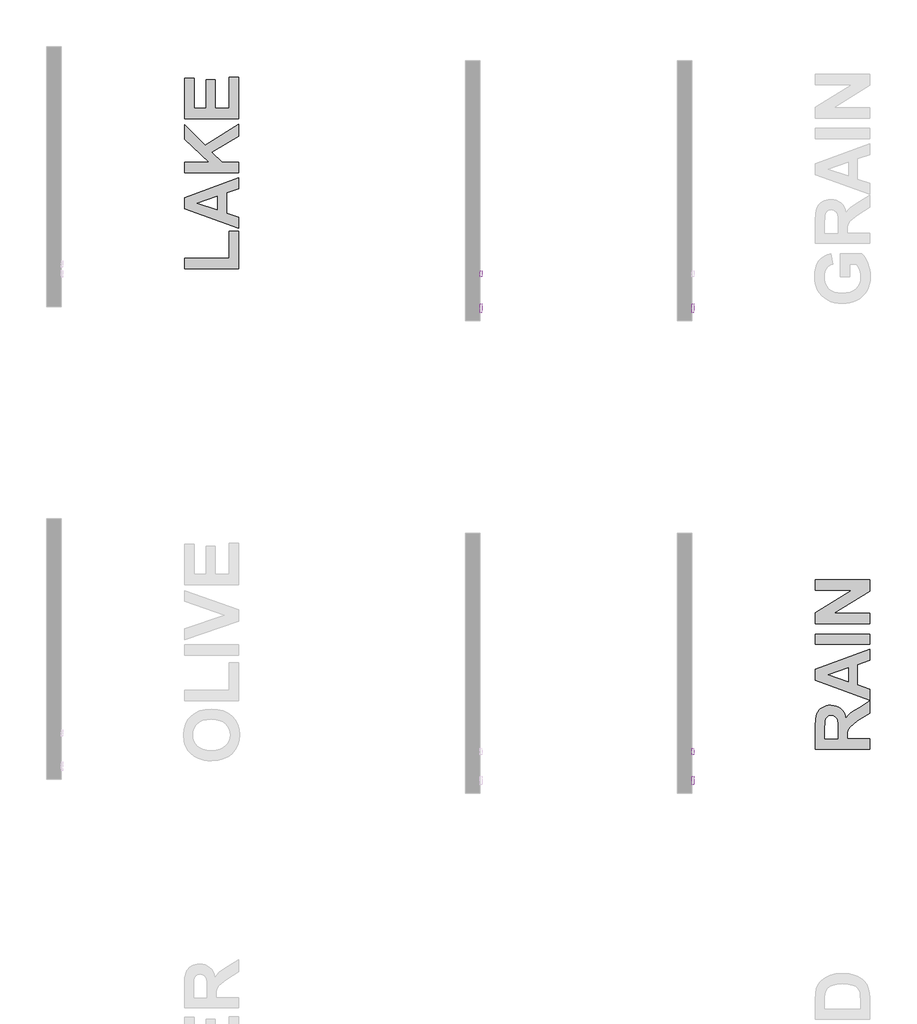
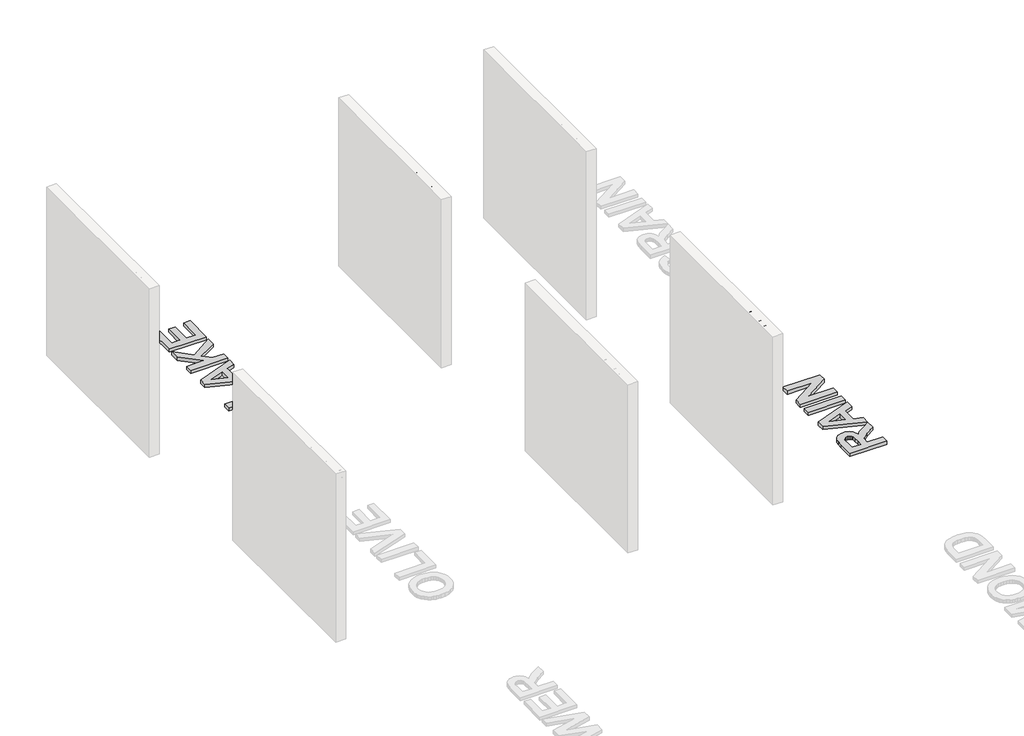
# One storey, part 9 of 10: 7 proxies.
"""IFC4 building model written with IfcOpenShell, lengths in millimetres."""

from ifc_helpers import new_model, si_unit, frame, origin, origin_with_axes, place, context, project, spatial, polyline, outline, extrude, element, save

model = new_model("IFC4")

# Units and contexts
model_context = context("Model", 3, world=origin())
ifc_project = project(units=[si_unit("LENGTHUNIT", "METRE", prefix="MILLI")], contexts=[model_context])

# Site, building, storey
site = spatial("IfcSite", under=ifc_project)
building = spatial("IfcBuilding", under=site)
storey = spatial("IfcBuildingStorey", under=building, Name="PORTOBELLO - SHOWROOM", Elevation=0.0)

# Proxies
placement = place(None, origin())
element("IfcBuildingElementProxy", 1, Name="10mm Arial", ObjectType="10mm Arial", at=placement, inside=storey, context=model_context, shape_type="SweptSolid", body=[
    extrude(outline(polyline([(592.0218065, 2518.4745677), (592.0218065, 2618.9308778), (635.3092546, 2618.9308778), (655.4078742, 2616.2208138), (666.3952832, 2606.6313564), (670.5032988, 2591.43783), (668.8018445, 2581.5418044), (663.6974819, 2573.3380359), (655.0369266, 2567.3231653), (642.6668945, 2563.9938332), (649.8038052, 2558.6227561), (659.9818737, 2545.6978353), (676.7327672, 2518.4745677), (662.1401147, 2518.4745677), (649.0680412, 2539.2966886), (639.6257366, 2553.0800007), (632.991598, 2559.591512), (627.0196469, 2561.982745), (619.7355834, 2562.4242034), (604.5788452, 2562.4242034), (604.5788452, 2518.4745677), (592.0218065, 2518.4745677)]), holes=[polyline([(604.5788452, 2574.9812421), (632.6850297, 2574.9812421), (647.0201647, 2576.7593384), (655.1626196, 2582.4492466), (657.94626, 2590.9718462), (652.6364965, 2602.0328315), (635.8488148, 2606.373839), (604.5788452, 2606.373839), (604.5788452, 2574.9812421)])]), frame((-23726.2609603, 0.0, 0.0), z_axis=(1.0, 0.0, 0.0), x_axis=(0.0, 1.0, 0.0)), (0.0, 0.0, 1.0), 20.0),
    extrude(outline(polyline([(737.9973822, 2527.8923467), (725.8204881, 2519.3820099), (712.3682698, 2516.9049378), (701.8744359, 2518.3948599), (694.1335856, 2522.8646261), (689.3603167, 2529.6520489), (687.7692271, 2538.0949407), (690.1727228, 2548.0277546), (696.4880304, 2555.2382417), (705.28041, 2559.3585201), (716.1451916, 2561.246981), (737.9238058, 2565.563463), (737.9973822, 2568.3593662), (734.5392914, 2577.6299925), (720.6578774, 2581.2597615), (707.9536859, 2578.8440031), (701.8958957, 2570.2723526), (689.3388569, 2571.8419824), (694.7712477, 2584.1047156), (705.7096057, 2591.2906772), (722.2765582, 2593.8168003), (737.4946101, 2591.5849828), (746.090786, 2585.9809138), (749.9412843, 2577.4583142), (750.5544209, 2566.4709053), (750.5544209, 2550.8481832), (751.192083, 2529.0327809), (753.6936806, 2518.4745677), (741.1366418, 2518.4745677), (737.9973822, 2527.8923467)]), holes=[polyline([(737.9973822, 2553.0064243), (717.739347, 2549.1559261), (706.935879, 2547.1203124), (702.0430485, 2543.8093744), (700.3262658, 2538.9778575), (704.0663995, 2532.1843033), (715.0415457, 2529.4619766), (727.7457372, 2532.4663462), (735.937243, 2539.738147), (737.9238058, 2549.4502317), (737.9973822, 2553.0064243)])]), frame((-23726.2609603, 0.0, 0.0), z_axis=(1.0, 0.0, 0.0), x_axis=(0.0, 1.0, 0.0)), (0.0, 0.0, 1.0), 20.0),
    extrude(outline(polyline([(-23706.2609603, 780.377388), (-23706.2609603, 767.8203492), (-23726.2609603, 767.8203492), (-23726.2609603, 780.377388), (-23706.2609603, 780.377388)])), frame((0.0, 0.0, 2606.373839), z_axis=(0.0, 0.0, 1.0), x_axis=(1.0, 0.0, 0.0)), (0.0, 0.0, 1.0), 12.5570388),
    extrude(outline(polyline([(-23706.2609603, 780.377388), (-23706.2609603, 767.8203492), (-23726.2609603, 767.8203492), (-23726.2609603, 780.377388), (-23706.2609603, 780.377388)])), frame((0.0, 0.0, 2518.4745677), z_axis=(0.0, 0.0, 1.0), x_axis=(1.0, 0.0, 0.0)), (0.0, 0.0, 1.0), 73.7726028),
    extrude(outline(polyline([(799.2129462, 2518.4745677), (799.2129462, 2592.2471704), (811.7699849, 2592.2471704), (811.7699849, 2581.9464746), (821.371705, 2590.8492188), (834.4805668, 2593.8168003), (846.3386297, 2591.4255673), (854.4320336, 2585.1470479), (858.1966927, 2575.9132098), (858.8588803, 2563.773104), (858.8588803, 2518.4745677), (846.3018415, 2518.4745677), (846.3018415, 2562.0808468), (844.854839, 2573.1908831), (839.7412793, 2579.0647323), (831.1205779, 2581.2597615), (817.4966813, 2576.3301428), (813.201659, 2569.1871007), (811.7699849, 2557.6172119), (811.7699849, 2518.4745677), (799.2129462, 2518.4745677)])), frame((-23726.2609603, 0.0, 0.0), z_axis=(1.0, 0.0, 0.0), x_axis=(0.0, 1.0, 0.0)), (0.0, 0.0, 1.0), 20.0),
])
element("IfcBuildingElementProxy", 2, Name="10mm Arial", ObjectType="10mm Arial", at=placement, inside=storey, context=model_context, shape_type="SweptSolid", body=[
    extrude(outline(polyline([(5539.14637, 2557.7153138), (5539.14637, 2570.2723526), (5579.956746, 2570.2723526), (5579.956746, 2532.7238636), (5559.8090754, 2520.8780634), (5538.5087079, 2516.9049378), (5524.4218932, 2518.4837647), (5511.6901104, 2523.2202454), (5501.1135031, 2530.948833), (5493.4922144, 2541.5039806), (5488.8844924, 2554.1652526), (5487.3485851, 2568.2122134), (5488.8783611, 2582.3603418), (5493.467689, 2595.5213202), (5500.9264964, 2606.5608457), (5511.0647111, 2614.3446156), (5523.4132834, 2618.9615346), (5537.5031638, 2620.5005077), (5557.1480623, 2616.9320523), (5570.9191117, 2606.9992384), (5578.5097435, 2590.383235), (5566.9337234, 2587.121348), (5561.207027, 2598.7341563), (5551.4213659, 2605.4296086), (5537.30696, 2607.9434689), (5521.2305169, 2605.2334049), (5510.2921589, 2598.1210196), (5503.8296985, 2588.4457231), (5499.9056239, 2568.7272482), (5504.6267761, 2546.8382695), (5518.3610373, 2533.7416705), (5537.5031638, 2529.4619766), (5554.6832529, 2532.6870754), (5567.3997072, 2539.5664687), (5567.3997072, 2557.7153138), (5539.14637, 2557.7153138)])), frame((-23726.2609603, 0.0, 0.0), z_axis=(1.0, 0.0, 0.0), x_axis=(0.0, 1.0, 0.0)), (0.0, 0.0, 1.0), 20.0),
    extrude(outline(polyline([(5598.7923042, 2518.4745677), (5598.7923042, 2592.2471704), (5609.7797131, 2592.2471704), (5609.7797131, 2581.3333379), (5617.5788114, 2591.3887791), (5625.4269606, 2593.8168003), (5638.0330503, 2589.9417766), (5633.8391956, 2578.6845875), (5625.0100277, 2581.2597615), (5617.9099052, 2578.7826894), (5613.3849566, 2571.9155588), (5611.3493429, 2557.24933), (5611.3493429, 2518.4745677), (5598.7923042, 2518.4745677)])), frame((-23726.2609603, 0.0, 0.0), z_axis=(1.0, 0.0, 0.0), x_axis=(0.0, 1.0, 0.0)), (0.0, 0.0, 1.0), 20.0),
    extrude(outline(polyline([(5692.9700949, 2527.8923467), (5680.7932009, 2519.3820099), (5667.3409826, 2516.9049378), (5656.8471487, 2518.3948599), (5649.1062984, 2522.8646261), (5644.3330295, 2529.6520489), (5642.7419399, 2538.0949407), (5645.1454356, 2548.0277546), (5651.4607431, 2555.2382417), (5660.2531228, 2559.3585201), (5671.1179044, 2561.246981), (5692.8965185, 2565.563463), (5692.9700949, 2568.3593662), (5689.5120042, 2577.6299925), (5675.6305902, 2581.2597615), (5662.9263987, 2578.8440031), (5656.8686085, 2570.2723526), (5644.3115697, 2571.8419824), (5649.7439605, 2584.1047156), (5660.6823185, 2591.2906772), (5677.249271, 2593.8168003), (5692.4673229, 2591.5849828), (5701.0634988, 2585.9809138), (5704.913997, 2577.4583142), (5705.5271337, 2566.4709053), (5705.5271337, 2550.8481832), (5706.1647958, 2529.0327809), (5708.6663934, 2518.4745677), (5696.1093546, 2518.4745677), (5692.9700949, 2527.8923467)]), holes=[polyline([(5692.9700949, 2553.0064243), (5672.7120597, 2549.1559261), (5661.9085918, 2547.1203124), (5657.0157613, 2543.8093744), (5655.2989786, 2538.9778575), (5659.0391122, 2532.1843033), (5670.0142584, 2529.4619766), (5682.71845, 2532.4663462), (5690.9099558, 2539.738147), (5692.8965185, 2549.4502317), (5692.9700949, 2553.0064243)])]), frame((-23726.2609603, 0.0, 0.0), z_axis=(1.0, 0.0, 0.0), x_axis=(0.0, 1.0, 0.0)), (0.0, 0.0, 1.0), 20.0),
    extrude(outline(polyline([(-23706.2609603, 5735.3501008), (-23706.2609603, 5722.793062), (-23726.2609603, 5722.793062), (-23726.2609603, 5735.3501008), (-23706.2609603, 5735.3501008)])), frame((0.0, 0.0, 2518.4745677), z_axis=(0.0, 0.0, 1.0), x_axis=(1.0, 0.0, 0.0)), (0.0, 0.0, 1.0), 73.7726028),
    extrude(outline(polyline([(-23706.2609603, 5735.3501008), (-23706.2609603, 5722.793062), (-23726.2609603, 5722.793062), (-23726.2609603, 5735.3501008), (-23706.2609603, 5735.3501008)])), frame((0.0, 0.0, 2606.373839), z_axis=(0.0, 0.0, 1.0), x_axis=(1.0, 0.0, 0.0)), (0.0, 0.0, 1.0), 12.5570388),
    extrude(outline(polyline([(5754.1856589, 2518.4745677), (5754.1856589, 2592.2471704), (5766.7426977, 2592.2471704), (5766.7426977, 2581.9464746), (5776.3444178, 2590.8492188), (5789.4532795, 2593.8168003), (5801.3113425, 2591.4255673), (5809.4047464, 2585.1470479), (5813.1694055, 2575.9132098), (5813.8315931, 2563.773104), (5813.8315931, 2518.4745677), (5801.2745543, 2518.4745677), (5801.2745543, 2562.0808468), (5799.8275518, 2573.1908831), (5794.7139921, 2579.0647323), (5786.0932906, 2581.2597615), (5772.4693941, 2576.3301428), (5768.1743718, 2569.1871007), (5766.7426977, 2557.6172119), (5766.7426977, 2518.4745677), (5754.1856589, 2518.4745677)])), frame((-23726.2609603, 0.0, 0.0), z_axis=(1.0, 0.0, 0.0), x_axis=(0.0, 1.0, 0.0)), (0.0, 0.0, 1.0), 20.0),
])
element("IfcBuildingElementProxy", 3, Name="10mm Arial", ObjectType="10mm Arial", at=placement, inside=storey, context=model_context, shape_type="SweptSolid", body=[
    extrude(outline(polyline([(5539.14637, 2557.7153138), (5539.14637, 2570.2723526), (5579.956746, 2570.2723526), (5579.956746, 2532.7238636), (5559.8090754, 2520.8780634), (5538.5087079, 2516.9049378), (5524.4218932, 2518.4837647), (5511.6901104, 2523.2202454), (5501.1135031, 2530.948833), (5493.4922144, 2541.5039806), (5488.8844924, 2554.1652526), (5487.3485851, 2568.2122134), (5488.8783611, 2582.3603418), (5493.467689, 2595.5213202), (5500.9264964, 2606.5608457), (5511.0647111, 2614.3446156), (5523.4132834, 2618.9615346), (5537.5031638, 2620.5005077), (5557.1480623, 2616.9320523), (5570.9191117, 2606.9992384), (5578.5097435, 2590.383235), (5566.9337234, 2587.121348), (5561.207027, 2598.7341563), (5551.4213659, 2605.4296086), (5537.30696, 2607.9434689), (5521.2305169, 2605.2334049), (5510.2921589, 2598.1210196), (5503.8296985, 2588.4457231), (5499.9056239, 2568.7272482), (5504.6267761, 2546.8382695), (5518.3610373, 2533.7416705), (5537.5031638, 2529.4619766), (5554.6832529, 2532.6870754), (5567.3997072, 2539.5664687), (5567.3997072, 2557.7153138), (5539.14637, 2557.7153138)])), frame((-25926.2609603, 0.0, 0.0), z_axis=(1.0, 0.0, 0.0), x_axis=(0.0, 1.0, 0.0)), (0.0, 0.0, 1.0), 20.0),
    extrude(outline(polyline([(5598.7923042, 2518.4745677), (5598.7923042, 2592.2471704), (5609.7797131, 2592.2471704), (5609.7797131, 2581.3333379), (5617.5788114, 2591.3887791), (5625.4269606, 2593.8168003), (5638.0330503, 2589.9417766), (5633.8391956, 2578.6845875), (5625.0100277, 2581.2597615), (5617.9099052, 2578.7826894), (5613.3849566, 2571.9155588), (5611.3493429, 2557.24933), (5611.3493429, 2518.4745677), (5598.7923042, 2518.4745677)])), frame((-25926.2609603, 0.0, 0.0), z_axis=(1.0, 0.0, 0.0), x_axis=(0.0, 1.0, 0.0)), (0.0, 0.0, 1.0), 20.0),
    extrude(outline(polyline([(5692.9700949, 2527.8923467), (5680.7932009, 2519.3820099), (5667.3409826, 2516.9049378), (5656.8471487, 2518.3948599), (5649.1062984, 2522.8646261), (5644.3330295, 2529.6520489), (5642.7419399, 2538.0949407), (5645.1454356, 2548.0277546), (5651.4607431, 2555.2382417), (5660.2531228, 2559.3585201), (5671.1179044, 2561.246981), (5692.8965185, 2565.563463), (5692.9700949, 2568.3593662), (5689.5120042, 2577.6299925), (5675.6305902, 2581.2597615), (5662.9263987, 2578.8440031), (5656.8686085, 2570.2723526), (5644.3115697, 2571.8419824), (5649.7439605, 2584.1047156), (5660.6823185, 2591.2906772), (5677.249271, 2593.8168003), (5692.4673229, 2591.5849828), (5701.0634988, 2585.9809138), (5704.913997, 2577.4583142), (5705.5271337, 2566.4709053), (5705.5271337, 2550.8481832), (5706.1647958, 2529.0327809), (5708.6663934, 2518.4745677), (5696.1093546, 2518.4745677), (5692.9700949, 2527.8923467)]), holes=[polyline([(5692.9700949, 2553.0064243), (5672.7120597, 2549.1559261), (5661.9085918, 2547.1203124), (5657.0157613, 2543.8093744), (5655.2989786, 2538.9778575), (5659.0391122, 2532.1843033), (5670.0142584, 2529.4619766), (5682.71845, 2532.4663462), (5690.9099558, 2539.738147), (5692.8965185, 2549.4502317), (5692.9700949, 2553.0064243)])]), frame((-25926.2609603, 0.0, 0.0), z_axis=(1.0, 0.0, 0.0), x_axis=(0.0, 1.0, 0.0)), (0.0, 0.0, 1.0), 20.0),
    extrude(outline(polyline([(-25906.2609603, 5735.3501008), (-25906.2609603, 5722.793062), (-25926.2609603, 5722.793062), (-25926.2609603, 5735.3501008), (-25906.2609603, 5735.3501008)])), frame((0.0, 0.0, 2518.4745677), z_axis=(0.0, 0.0, 1.0), x_axis=(1.0, 0.0, 0.0)), (0.0, 0.0, 1.0), 73.7726028),
    extrude(outline(polyline([(-25906.2609603, 5735.3501008), (-25906.2609603, 5722.793062), (-25926.2609603, 5722.793062), (-25926.2609603, 5735.3501008), (-25906.2609603, 5735.3501008)])), frame((0.0, 0.0, 2606.373839), z_axis=(0.0, 0.0, 1.0), x_axis=(1.0, 0.0, 0.0)), (0.0, 0.0, 1.0), 12.5570388),
    extrude(outline(polyline([(5754.1856589, 2518.4745677), (5754.1856589, 2592.2471704), (5766.7426977, 2592.2471704), (5766.7426977, 2581.9464746), (5776.3444178, 2590.8492188), (5789.4532795, 2593.8168003), (5801.3113425, 2591.4255673), (5809.4047464, 2585.1470479), (5813.1694055, 2575.9132098), (5813.8315931, 2563.773104), (5813.8315931, 2518.4745677), (5801.2745543, 2518.4745677), (5801.2745543, 2562.0808468), (5799.8275518, 2573.1908831), (5794.7139921, 2579.0647323), (5786.0932906, 2581.2597615), (5772.4693941, 2576.3301428), (5768.1743718, 2569.1871007), (5766.7426977, 2557.6172119), (5766.7426977, 2518.4745677), (5754.1856589, 2518.4745677)])), frame((-25926.2609603, 0.0, 0.0), z_axis=(1.0, 0.0, 0.0), x_axis=(0.0, 1.0, 0.0)), (0.0, 0.0, 1.0), 20.0),
])
element("IfcBuildingElementProxy", 4, Name="10mm Arial Narrow", ObjectType="10mm Arial Narrow", at=placement, inside=storey, context=model_context, shape_type="SweptSolid", body=[
    extrude(outline(polyline([(904.3357061, 2518.4745677), (904.3357061, 2619.1931714), (935.6325908, 2619.1931714), (951.9282923, 2617.3148507), (963.4012784, 2607.8344075), (967.6909568, 2590.8152987), (965.9046484, 2578.7394731), (960.5457232, 2569.1130794), (950.8019344, 2562.811821), (935.8610352, 2560.7114015), (914.0826677, 2560.7114015), (914.0826677, 2518.4745677), (904.3357061, 2518.4745677)]), holes=[polyline([(914.0826677, 2572.0828568), (937.0540227, 2572.0828568), (952.9182181, 2576.613671), (957.9439952, 2590.2822617), (955.4691807, 2600.4480381), (949.4915519, 2606.247988), (936.8255783, 2607.8217162), (914.0826677, 2607.8217162), (914.0826677, 2572.0828568)])]), frame((-23726.2609603, 0.0, 0.0), z_axis=(1.0, 0.0, 0.0), x_axis=(0.0, 1.0, 0.0)), (0.0, 0.0, 1.0), 20.0),
    extrude(outline(polyline([(975.8134249, 2555.0256739), (977.7678938, 2571.6164494), (983.6313004, 2583.5685342), (992.4898671, 2590.7930888), (1003.4298162, 2593.2012737), (1014.2428518, 2590.7930888), (1023.1268012, 2583.5685342), (1029.066356, 2571.8068198), (1031.0462076, 2555.7871552), (1029.1012572, 2538.6252687), (1023.2664062, 2526.4828135), (1014.417358, 2519.2582589), (1003.4298162, 2516.8500741), (992.5691881, 2519.2646046), (983.6947572, 2526.5081962), (977.783758, 2538.4666267), (975.8134249, 2555.0256739)]), holes=[polyline([(985.5603865, 2555.0510566), (986.8644234, 2542.4993052), (990.776534, 2533.6280471), (996.6177307, 2528.3547886), (1003.7090261, 2526.5970357), (1010.4290992, 2528.3706528), (1016.1211726, 2533.6915039), (1020.0047276, 2542.5786262), (1021.2992459, 2555.0510566), (1019.9952091, 2567.5647339), (1016.0830985, 2576.4233006), (1010.2419017, 2581.6965592), (1003.1506064, 2583.454312), (996.3829406, 2581.6870407), (990.7003859, 2576.3852265), (986.8453864, 2567.5171413), (985.5603865, 2555.0510566)])]), frame((-23726.2609603, 0.0, 0.0), z_axis=(1.0, 0.0, 0.0), x_axis=(0.0, 1.0, 0.0)), (0.0, 0.0, 1.0), 20.0),
    extrude(outline(polyline([(1102.5239264, 2526.5970357), (1104.14842, 2516.8500741), (1096.7874333, 2516.8500741), (1088.512669, 2518.9695306), (1084.1976079, 2524.7694804), (1083.0300031, 2539.4153056), (1083.0300031, 2581.8298184), (1074.907535, 2581.8298184), (1074.907535, 2585.0788056), (1073.2830414, 2580.2053248), (1065.7189931, 2581.8298184), (1059.6398334, 2579.5073002), (1055.7689697, 2573.0220171), (1053.7891181, 2557.6147106), (1053.7891181, 2518.4745677), (1044.0421565, 2518.4745677), (1044.0421565, 2591.5767801), (1053.7891181, 2591.5767801), (1053.7891181, 2581.8805838), (1060.0332654, 2590.967595), (1066.429709, 2593.2012737), (1074.907535, 2591.5767801), (1083.0300031, 2591.5767801), (1083.0300031, 2607.8217162), (1092.7769647, 2615.9441842), (1092.7769647, 2591.5767801), (1102.5239264, 2591.5767801), (1102.5239264, 2581.8298184), (1092.7769647, 2581.8298184), (1092.7769647, 2537.1816269), (1093.639977, 2529.1860724), (1098.2596307, 2526.5970357), (1102.5239264, 2526.5970357)])), frame((-23726.2609603, 0.0, 0.0), z_axis=(1.0, 0.0, 0.0), x_axis=(0.0, 1.0, 0.0)), (0.0, 0.0, 1.0), 20.0),
    extrude(outline(polyline([(1109.0219008, 2555.0256739), (1110.9763697, 2571.6164494), (1116.8397763, 2583.5685342), (1125.698343, 2590.7930888), (1136.6382922, 2593.2012737), (1147.4513278, 2590.7930888), (1156.3352772, 2583.5685342), (1162.2748319, 2571.8068198), (1164.2546835, 2555.7871552), (1162.3097332, 2538.6252687), (1156.4748821, 2526.4828135), (1147.6258339, 2519.2582589), (1136.6382922, 2516.8500741), (1125.777664, 2519.2646046), (1116.9032331, 2526.5081962), (1110.9922339, 2538.4666267), (1109.0219008, 2555.0256739)]), holes=[polyline([(1118.7688625, 2555.0510566), (1120.0728993, 2542.4993052), (1123.9850099, 2533.6280471), (1129.8262067, 2528.3547886), (1136.917502, 2526.5970357), (1143.6375752, 2528.3706528), (1149.3296485, 2533.6915039), (1153.2132035, 2542.5786262), (1154.5077219, 2555.0510566), (1153.203685, 2567.5647339), (1149.2915744, 2576.4233006), (1143.4503777, 2581.6965592), (1136.3590823, 2583.454312), (1129.5914166, 2581.6870407), (1123.9088618, 2576.3852265), (1120.0538623, 2567.5171413), (1118.7688625, 2555.0510566)])]), frame((-23726.2609603, 0.0, 0.0), z_axis=(1.0, 0.0, 0.0), x_axis=(0.0, 1.0, 0.0)), (0.0, 0.0, 1.0), 20.0),
    extrude(outline(polyline([(1186.997594, 2518.4745677), (1177.2506324, 2518.4745677), (1177.2506324, 2619.1931714), (1186.997594, 2619.1931714), (1186.997594, 2583.7842873), (1194.3966548, 2590.8660641), (1203.5978881, 2593.2012737), (1216.4796148, 2589.0004347), (1225.7569962, 2576.2710043), (1229.2344279, 2555.5840935), (1227.3021689, 2539.1297501), (1221.5053919, 2526.927011), (1213.1322695, 2519.3693083), (1203.4709746, 2516.8500741), (1194.1301363, 2519.4644935), (1186.997594, 2527.2316035), (1186.997594, 2518.4745677)]), holes=[polyline([(1186.997594, 2555.5840935), (1189.0789765, 2538.3365403), (1194.9677658, 2529.6048872), (1203.4202091, 2526.5970357), (1209.3629367, 2528.3865169), (1214.601294, 2533.7549607), (1219.4874662, 2555.1779701), (1214.778973, 2576.613671), (1209.53427, 2581.7441518), (1203.2171474, 2583.454312), (1197.2395186, 2581.6648308), (1191.947223, 2576.2963871), (1186.997594, 2555.5840935)])]), frame((-23726.2609603, 0.0, 0.0), z_axis=(1.0, 0.0, 0.0), x_axis=(0.0, 1.0, 0.0)), (0.0, 0.0, 1.0), 20.0),
    extrude(outline(polyline([(1281.2182234, 2541.2174782), (1290.965185, 2539.5929846), (1287.2656547, 2529.706418), (1281.4466678, 2522.5865671), (1273.7430145, 2518.2841973), (1264.3894849, 2516.8500741), (1252.7959309, 2519.2646046), (1243.6518087, 2526.5081962), (1237.7122539, 2538.3143304), (1235.7324023, 2554.4164888), (1237.7217724, 2571.0834124), (1243.6898827, 2583.2639417), (1252.7039186, 2590.7169407), (1263.8310652, 2593.2012737), (1274.5140144, 2590.8026073), (1283.2615317, 2583.6066083), (1289.0963828, 2571.8671037), (1291.0413332, 2555.8379207), (1290.965185, 2552.5889335), (1245.479364, 2552.5889335), (1251.4823755, 2533.1457756), (1257.4124117, 2528.2342207), (1264.5163984, 2526.5970357), (1274.6948662, 2530.2521463), (1281.2182234, 2541.2174782)]), holes=[polyline([(1246.1393145, 2562.3358951), (1281.2182234, 2562.3358951), (1276.9539276, 2576.6009796), (1271.1285951, 2581.7409789), (1263.9072133, 2583.454312), (1251.6981286, 2577.7432017), (1246.1393145, 2562.3358951)])]), frame((-23726.2609603, 0.0, 0.0), z_axis=(1.0, 0.0, 0.0), x_axis=(0.0, 1.0, 0.0)), (0.0, 0.0, 1.0), 20.0),
    extrude(outline(polyline([(-23706.2609603, 1313.7080955), (-23706.2609603, 1303.9611339), (-23726.2609603, 1303.9611339), (-23726.2609603, 1313.7080955), (-23706.2609603, 1313.7080955)])), frame((0.0, 0.0, 2518.4745677), z_axis=(0.0, 0.0, 1.0), x_axis=(1.0, 0.0, 0.0)), (0.0, 0.0, 1.0), 100.7186038),
    extrude(outline(polyline([(-23706.2609603, 1339.6999933), (-23706.2609603, 1329.9530316), (-23726.2609603, 1329.9530316), (-23726.2609603, 1339.6999933), (-23706.2609603, 1339.6999933)])), frame((0.0, 0.0, 2518.4745677), z_axis=(0.0, 0.0, 1.0), x_axis=(1.0, 0.0, 0.0)), (0.0, 0.0, 1.0), 100.7186038),
    extrude(outline(polyline([(1351.0714485, 2555.0256739), (1353.0259174, 2571.6164494), (1358.889324, 2583.5685342), (1367.7478908, 2590.7930888), (1378.6878399, 2593.2012737), (1389.5008755, 2590.7930888), (1398.3848249, 2583.5685342), (1404.3243797, 2571.8068198), (1406.3042313, 2555.7871552), (1404.3592809, 2538.6252687), (1398.5244298, 2526.4828135), (1389.6753816, 2519.2582589), (1378.6878399, 2516.8500741), (1367.8272117, 2519.2646046), (1358.9527808, 2526.5081962), (1353.0417816, 2538.4666267), (1351.0714485, 2555.0256739)]), holes=[polyline([(1360.8184102, 2555.0510566), (1362.1224471, 2542.4993052), (1366.0345576, 2533.6280471), (1371.8757544, 2528.3547886), (1378.9670497, 2526.5970357), (1385.6871229, 2528.3706528), (1391.3791962, 2533.6915039), (1395.2627513, 2542.5786262), (1396.5572696, 2555.0510566), (1395.2532327, 2567.5647339), (1391.3411222, 2576.4233006), (1385.4999254, 2581.6965592), (1378.4086301, 2583.454312), (1371.6409643, 2581.6870407), (1365.9584095, 2576.3852265), (1362.10341, 2567.5171413), (1360.8184102, 2555.0510566)])]), frame((-23726.2609603, 0.0, 0.0), z_axis=(1.0, 0.0, 0.0), x_axis=(0.0, 1.0, 0.0)), (0.0, 0.0, 1.0), 20.0),
])
element("IfcBuildingElementProxy", 5, Name="10mm Arial Narrow", ObjectType="10mm Arial Narrow", at=placement, inside=storey, context=model_context, shape_type="SweptSolid", body=[
    extrude(outline(polyline([(5859.3713743, 2518.4745677), (5859.3713743, 2619.1931714), (5890.6682589, 2619.1931714), (5906.9639605, 2617.3148507), (5918.4369466, 2607.8344075), (5922.726625, 2590.8152987), (5920.9403166, 2578.7394731), (5915.5813914, 2569.1130794), (5905.8376026, 2562.811821), (5890.8967034, 2560.7114015), (5869.1183359, 2560.7114015), (5869.1183359, 2518.4745677), (5859.3713743, 2518.4745677)]), holes=[polyline([(5869.1183359, 2572.0828568), (5892.0896909, 2572.0828568), (5907.9538863, 2576.613671), (5912.9796634, 2590.2822617), (5910.5048489, 2600.4480381), (5904.52722, 2606.247988), (5891.8612464, 2607.8217162), (5869.1183359, 2607.8217162), (5869.1183359, 2572.0828568)])]), frame((-25926.2609603, 0.0, 0.0), z_axis=(1.0, 0.0, 0.0), x_axis=(0.0, 1.0, 0.0)), (0.0, 0.0, 1.0), 20.0),
    extrude(outline(polyline([(5930.8490931, 2555.0256739), (5932.8035619, 2571.6164494), (5938.6669685, 2583.5685342), (5947.5255353, 2590.7930888), (5958.4654844, 2593.2012737), (5969.27852, 2590.7930888), (5978.1624694, 2583.5685342), (5984.1020242, 2571.8068198), (5986.0818758, 2555.7871552), (5984.1369254, 2538.6252687), (5978.3020743, 2526.4828135), (5969.4530261, 2519.2582589), (5958.4654844, 2516.8500741), (5947.6048562, 2519.2646046), (5938.7304253, 2526.5081962), (5932.8194261, 2538.4666267), (5930.8490931, 2555.0256739)]), holes=[polyline([(5940.5960547, 2555.0510566), (5941.9000916, 2542.4993052), (5945.8122022, 2533.6280471), (5951.6533989, 2528.3547886), (5958.7446942, 2526.5970357), (5965.4647674, 2528.3706528), (5971.1568407, 2533.6915039), (5975.0403958, 2542.5786262), (5976.3349141, 2555.0510566), (5975.0308772, 2567.5647339), (5971.1187667, 2576.4233006), (5965.2775699, 2581.6965592), (5958.1862746, 2583.454312), (5951.4186088, 2581.6870407), (5945.736054, 2576.3852265), (5941.8810545, 2567.5171413), (5940.5960547, 2555.0510566)])]), frame((-25926.2609603, 0.0, 0.0), z_axis=(1.0, 0.0, 0.0), x_axis=(0.0, 1.0, 0.0)), (0.0, 0.0, 1.0), 20.0),
    extrude(outline(polyline([(6057.5595946, 2526.5970357), (6059.1840882, 2516.8500741), (6051.8231015, 2516.8500741), (6043.5483372, 2518.9695306), (6039.233276, 2524.7694804), (6038.0656712, 2539.4153056), (6038.0656712, 2581.8298184), (6029.9432032, 2581.8298184), (6029.9432032, 2585.0788056), (6028.3187096, 2580.2053248), (6020.7546612, 2581.8298184), (6014.6755015, 2579.5073002), (6010.8046379, 2573.0220171), (6008.8247863, 2557.6147106), (6008.8247863, 2518.4745677), (5999.0778246, 2518.4745677), (5999.0778246, 2591.5767801), (6008.8247863, 2591.5767801), (6008.8247863, 2581.8805838), (6015.0689336, 2590.967595), (6021.4653772, 2593.2012737), (6029.9432032, 2591.5767801), (6038.0656712, 2591.5767801), (6038.0656712, 2607.8217162), (6047.8126329, 2615.9441842), (6047.8126329, 2591.5767801), (6057.5595946, 2591.5767801), (6057.5595946, 2581.8298184), (6047.8126329, 2581.8298184), (6047.8126329, 2537.1816269), (6048.6756451, 2529.1860724), (6053.2952988, 2526.5970357), (6057.5595946, 2526.5970357)])), frame((-25926.2609603, 0.0, 0.0), z_axis=(1.0, 0.0, 0.0), x_axis=(0.0, 1.0, 0.0)), (0.0, 0.0, 1.0), 20.0),
    extrude(outline(polyline([(6064.057569, 2555.0256739), (6066.0120379, 2571.6164494), (6071.8754445, 2583.5685342), (6080.7340112, 2590.7930888), (6091.6739603, 2593.2012737), (6102.4869959, 2590.7930888), (6111.3709453, 2583.5685342), (6117.3105001, 2571.8068198), (6119.2903517, 2555.7871552), (6117.3454013, 2538.6252687), (6111.5105503, 2526.4828135), (6102.6615021, 2519.2582589), (6091.6739603, 2516.8500741), (6080.8133322, 2519.2646046), (6071.9389013, 2526.5081962), (6066.0279021, 2538.4666267), (6064.057569, 2555.0256739)]), holes=[polyline([(6073.8045306, 2555.0510566), (6075.1085675, 2542.4993052), (6079.0206781, 2533.6280471), (6084.8618748, 2528.3547886), (6091.9531702, 2526.5970357), (6098.6732433, 2528.3706528), (6104.3653167, 2533.6915039), (6108.2488717, 2542.5786262), (6109.54339, 2555.0510566), (6108.2393532, 2567.5647339), (6104.3272426, 2576.4233006), (6098.4860458, 2581.6965592), (6091.3947505, 2583.454312), (6084.6270847, 2581.6870407), (6078.94453, 2576.3852265), (6075.0895305, 2567.5171413), (6073.8045306, 2555.0510566)])]), frame((-25926.2609603, 0.0, 0.0), z_axis=(1.0, 0.0, 0.0), x_axis=(0.0, 1.0, 0.0)), (0.0, 0.0, 1.0), 20.0),
    extrude(outline(polyline([(6142.0332622, 2518.4745677), (6132.2863006, 2518.4745677), (6132.2863006, 2619.1931714), (6142.0332622, 2619.1931714), (6142.0332622, 2583.7842873), (6149.4323229, 2590.8660641), (6158.6335563, 2593.2012737), (6171.5152829, 2589.0004347), (6180.7926644, 2576.2710043), (6184.270096, 2555.5840935), (6182.337837, 2539.1297501), (6176.54106, 2526.927011), (6168.1679377, 2519.3693083), (6158.5066427, 2516.8500741), (6149.1658045, 2519.4644935), (6142.0332622, 2527.2316035), (6142.0332622, 2518.4745677)]), holes=[polyline([(6142.0332622, 2555.5840935), (6144.1146447, 2538.3365403), (6150.003434, 2529.6048872), (6158.4558773, 2526.5970357), (6164.3986049, 2528.3865169), (6169.6369622, 2533.7549607), (6174.5231344, 2555.1779701), (6169.8146412, 2576.613671), (6164.5699382, 2581.7441518), (6158.2528156, 2583.454312), (6152.2751868, 2581.6648308), (6146.9828912, 2576.2963871), (6142.0332622, 2555.5840935)])]), frame((-25926.2609603, 0.0, 0.0), z_axis=(1.0, 0.0, 0.0), x_axis=(0.0, 1.0, 0.0)), (0.0, 0.0, 1.0), 20.0),
    extrude(outline(polyline([(6236.2538915, 2541.2174782), (6246.0008532, 2539.5929846), (6242.3013228, 2529.706418), (6236.4823359, 2522.5865671), (6228.7786827, 2518.2841973), (6219.4251531, 2516.8500741), (6207.8315991, 2519.2646046), (6198.6874768, 2526.5081962), (6192.7479221, 2538.3143304), (6190.7680705, 2554.4164888), (6192.7574406, 2571.0834124), (6198.7255509, 2583.2639417), (6207.7395867, 2590.7169407), (6218.8667334, 2593.2012737), (6229.5496826, 2590.8026073), (6238.2971999, 2583.6066083), (6244.132051, 2571.8671037), (6246.0770013, 2555.8379207), (6246.0008532, 2552.5889335), (6200.5150321, 2552.5889335), (6206.5180437, 2533.1457756), (6212.4480799, 2528.2342207), (6219.5520666, 2526.5970357), (6229.7305344, 2530.2521463), (6236.2538915, 2541.2174782)]), holes=[polyline([(6201.1749827, 2562.3358951), (6236.2538915, 2562.3358951), (6231.9895958, 2576.6009796), (6226.1642633, 2581.7409789), (6218.9428815, 2583.454312), (6206.7337967, 2577.7432017), (6201.1749827, 2562.3358951)])]), frame((-25926.2609603, 0.0, 0.0), z_axis=(1.0, 0.0, 0.0), x_axis=(0.0, 1.0, 0.0)), (0.0, 0.0, 1.0), 20.0),
    extrude(outline(polyline([(-25906.2609603, 6268.7437637), (-25906.2609603, 6258.9968021), (-25926.2609603, 6258.9968021), (-25926.2609603, 6268.7437637), (-25906.2609603, 6268.7437637)])), frame((0.0, 0.0, 2518.4745677), z_axis=(0.0, 0.0, 1.0), x_axis=(1.0, 0.0, 0.0)), (0.0, 0.0, 1.0), 100.7186038),
    extrude(outline(polyline([(-25906.2609603, 6294.7356615), (-25906.2609603, 6284.9886998), (-25926.2609603, 6284.9886998), (-25926.2609603, 6294.7356615), (-25906.2609603, 6294.7356615)])), frame((0.0, 0.0, 2518.4745677), z_axis=(0.0, 0.0, 1.0), x_axis=(1.0, 0.0, 0.0)), (0.0, 0.0, 1.0), 100.7186038),
    extrude(outline(polyline([(6306.1071167, 2555.0256739), (6308.0615856, 2571.6164494), (6313.9249922, 2583.5685342), (6322.7835589, 2590.7930888), (6333.7235081, 2593.2012737), (6344.5365437, 2590.7930888), (6353.4204931, 2583.5685342), (6359.3600478, 2571.8068198), (6361.3398994, 2555.7871552), (6359.3949491, 2538.6252687), (6353.560098, 2526.4828135), (6344.7110498, 2519.2582589), (6333.7235081, 2516.8500741), (6322.8628799, 2519.2646046), (6313.988449, 2526.5081962), (6308.0774498, 2538.4666267), (6306.1071167, 2555.0256739)]), holes=[polyline([(6315.8540784, 2555.0510566), (6317.1581152, 2542.4993052), (6321.0702258, 2533.6280471), (6326.9114226, 2528.3547886), (6334.0027179, 2526.5970357), (6340.7227911, 2528.3706528), (6346.4148644, 2533.6915039), (6350.2984194, 2542.5786262), (6351.5929378, 2555.0510566), (6350.2889009, 2567.5647339), (6346.3767903, 2576.4233006), (6340.5355936, 2581.6965592), (6333.4442982, 2583.454312), (6326.6766325, 2581.6870407), (6320.9940777, 2576.3852265), (6317.1390782, 2567.5171413), (6315.8540784, 2555.0510566)])]), frame((-25926.2609603, 0.0, 0.0), z_axis=(1.0, 0.0, 0.0), x_axis=(0.0, 1.0, 0.0)), (0.0, 0.0, 1.0), 20.0),
])
element("IfcBuildingElementProxy", 6, Name="550mm Arial", ObjectType="550mm Arial", at=placement, inside=storey, context=model_context, shape_type="SweptSolid", body=[
    extrude(outline(polyline([(-21883.4014648, 961.1032311), (-22444.5441347, 961.1032311), (-22444.5441347, 1197.1394335), (-22440.7516899, 1274.0321233), (-22429.3743552, 1326.5696625), (-22420.3107599, 1345.7406453), (-22408.2897534, 1362.8936299), (-22393.3113358, 1378.0286164), (-22375.375507, 1391.1456046), (-22355.256413, 1401.7400951), (-22333.7281995, 1409.3075884), (-22310.7908666, 1413.8480843), (-22286.4444142, 1415.361583), (-22256.0961569, 1413.1739685), (-22228.5139489, 1406.6111253), (-22203.6977901, 1395.6730532), (-22181.6476805, 1380.3597522), (-22162.8942145, 1360.688619), (-22147.9679865, 1336.67705), (-22136.8689964, 1308.3250452), (-22129.5972443, 1275.6326046), (-22107.2600919, 1306.633232), (-22082.8353552, 1331.7190372), (-22047.4508006, 1357.6746691), (-21992.2341949, 1391.2847769), (-21883.4014648, 1459.8967155), (-21883.4014648, 1335.0591721), (-22011.5791431, 1253.7825552), (-22087.6367991, 1189.9720606), (-22100.8407701, 1172.2623868), (-22109.1389178, 1153.5089209), (-22113.5228449, 1128.6144776), (-22114.984154, 1092.4818721), (-22114.984154, 1067.9875492), (-21883.4014648, 1067.9875492), (-21883.4014648, 961.1032311)]), holes=[polyline([(-22212.9614455, 1067.9875492), (-22212.9614455, 1156.0836082), (-22214.5793234, 1225.6175632), (-22219.432957, 1263.0375124), (-22228.2356043, 1282.069323), (-22241.7005233, 1296.4388618), (-22259.4623867, 1305.4676641), (-22281.1558672, 1308.4772649), (-22305.1804837, 1304.5108546), (-22324.0905185, 1292.6116239), (-22337.4336617, 1273.4754341), (-22344.7576034, 1247.7981468), (-22346.5668432, 1160.9546383), (-22346.5668432, 1067.9875492), (-22212.9614455, 1067.9875492)])]), origin_with_axes(), (0.0, 0.0, 1.0), 50.0),
    extrude(outline(polyline([(-21883.4014648, 1994.3183059), (-21883.4014648, 1882.0062686), (-22008.0998359, 1838.0278252), (-22008.0998359, 1626.0684288), (-21883.4014648, 1582.6466745), (-21883.4014648, 1468.803742), (-22444.5441347, 1673.6653517), (-22444.5441347, 1787.5082842), (-21883.4014648, 1994.3183059)]), holes=[polyline([(-22106.0771275, 1803.7914421), (-22310.9387371, 1731.561024), (-22106.0771275, 1660.3048119), (-22106.0771275, 1803.7914421)])]), origin_with_axes(), (0.0, 0.0, 1.0), 50.0),
    extrude(outline(polyline([(-21883.4014648, 2047.760465), (-22444.5441347, 2047.760465), (-22444.5441347, 2154.6447831), (-21883.4014648, 2154.6447831), (-21883.4014648, 2047.760465)])), origin_with_axes(), (0.0, 0.0, 1.0), 50.0),
    extrude(outline(polyline([(-21883.4014648, 2261.5291012), (-22444.5441347, 2261.5291012), (-22444.5441347, 2373.562794), (-22066.8305419, 2608.903135), (-22444.5441347, 2608.903135), (-22444.5441347, 2715.7874531), (-21883.4014648, 2715.7874531), (-21883.4014648, 2600.274453), (-22255.548166, 2368.4134193), (-21883.4014648, 2368.4134193), (-21883.4014648, 2261.5291012)])), origin_with_axes(), (0.0, 0.0, 1.0), 50.0),
])
element("IfcBuildingElementProxy", 7, Name="550mm Arial", ObjectType="550mm Arial", at=placement, inside=storey, context=model_context, shape_type="SweptSolid", body=[
    extrude(outline(polyline([(-28432.8826375, 5943.5074378), (-28994.0253074, 5943.5074378), (-28994.0253074, 6050.3917559), (-28530.8599291, 6050.3917559), (-28530.8599291, 6335.4166041), (-28432.8826375, 6335.4166041), (-28432.8826375, 5943.5074378)])), origin_with_axes(), (0.0, 0.0, 1.0), 50.0),
    extrude(outline(polyline([(-28432.8826375, 6887.6522476), (-28432.8826375, 6775.3402102), (-28557.5810086, 6731.3617668), (-28557.5810086, 6519.4023704), (-28432.8826375, 6475.9806162), (-28432.8826375, 6362.1376836), (-28994.0253074, 6566.9992933), (-28994.0253074, 6680.8422259), (-28432.8826375, 6887.6522476)]), holes=[polyline([(-28655.5583002, 6697.1253837), (-28860.4199098, 6624.8949656), (-28655.5583002, 6553.6387535), (-28655.5583002, 6697.1253837)])]), origin_with_axes(), (0.0, 0.0, 1.0), 50.0),
    extrude(outline(polyline([(-28432.8826375, 6941.0944066), (-28994.0253074, 6941.0944066), (-28994.0253074, 7047.9787247), (-28738.2266399, 7047.9787247), (-28994.0253074, 7288.746785), (-28994.0253074, 7435.4343778), (-28779.6999821, 7223.0574645), (-28432.8826375, 7444.3414043), (-28432.8826375, 7319.3646886), (-28709.4179761, 7153.6104922), (-28602.6728303, 7047.9787247), (-28432.8826375, 7047.9787247), (-28432.8826375, 6941.0944066)])), origin_with_axes(), (0.0, 0.0, 1.0), 50.0),
    extrude(outline(polyline([(-28432.8826375, 7502.2370766), (-28994.0253074, 7502.2370766), (-28994.0253074, 7920.8673225), (-28896.0480159, 7920.8673225), (-28896.0480159, 7609.1213947), (-28771.3496448, 7609.1213947), (-28771.3496448, 7903.0532694), (-28673.3723532, 7903.0532694), (-28673.3723532, 7609.1213947), (-28530.8599291, 7609.1213947), (-28530.8599291, 7929.774349), (-28432.8826375, 7929.774349), (-28432.8826375, 7502.2370766)])), origin_with_axes(), (0.0, 0.0, 1.0), 50.0),
])

save(model, "model.ifc")
